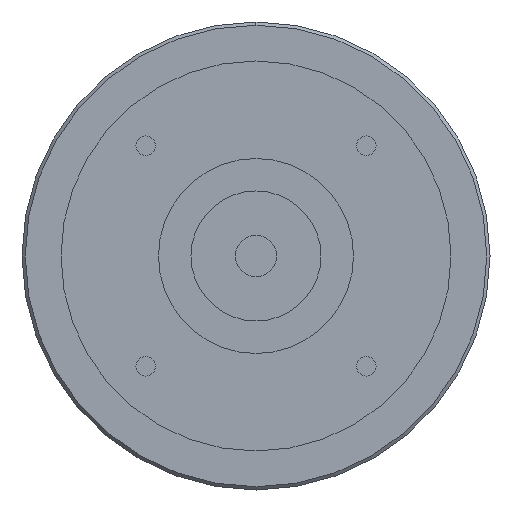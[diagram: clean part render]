
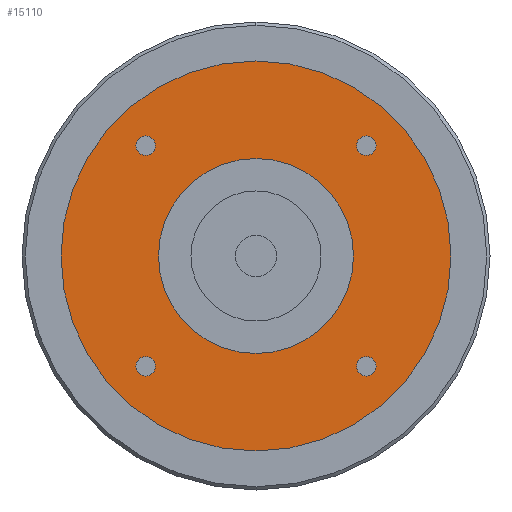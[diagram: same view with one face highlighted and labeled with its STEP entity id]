
A CAD part, left-side view. The second image highlights one B-rep face of the part: STEP entity #15110.
In plain terms, the highlighted planar face has unit normal (-1, 0, 0) as drawn and (0, 0, -1) by its records, which use the part's own axes.
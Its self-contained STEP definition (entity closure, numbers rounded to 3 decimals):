
#11930=CARTESIAN_POINT('',(-16.971,15.471,-92.));
#11940=VERTEX_POINT('',#11930);
#12120=CARTESIAN_POINT('',(-16.971,18.471,-92.));
#12130=VERTEX_POINT('',#12120);
#12160=CARTESIAN_POINT('',(-16.971,16.971,-92.));
#12170=DIRECTION('',(0.,0.,-1.));
#12180=DIRECTION('',(-1.,0.,0.));
#12190=AXIS2_PLACEMENT_3D('',#12160,#12170,#12180);
#12200=CIRCLE('',#12190,1.5);
#12210=CARTESIAN_POINT('',(-18.471,16.971,-92.));
#12220=VERTEX_POINT('',#12210);
#12230=EDGE_CURVE('',#12220,#12130,#12200,.T.);
#12250=EDGE_CURVE('',#11940,#12220,#12200,.T.);
#12390=CARTESIAN_POINT('',(15.471,16.971,-92.));
#12400=VERTEX_POINT('',#12390);
#12580=CARTESIAN_POINT('',(18.471,16.971,-92.));
#12590=VERTEX_POINT('',#12580);
#12620=CARTESIAN_POINT('',(16.971,16.971,-92.));
#12630=DIRECTION('',(0.,0.,-1.));
#12640=DIRECTION('',(0.,1.,0.));
#12650=AXIS2_PLACEMENT_3D('',#12620,#12630,#12640);
#12660=CIRCLE('',#12650,1.5);
#12670=CARTESIAN_POINT('',(16.971,18.471,-92.));
#12680=VERTEX_POINT('',#12670);
#12690=EDGE_CURVE('',#12680,#12590,#12660,.T.);
#12710=EDGE_CURVE('',#12400,#12680,#12660,.T.);
#14040=CARTESIAN_POINT('',(30.,0.,-92.));
#14050=VERTEX_POINT('',#14040);
#14080=CARTESIAN_POINT('',(0.,0.,
-92.));
#14090=DIRECTION('',(0.,0.,1.));
#14100=DIRECTION('',(0.,-1.,0.));
#14110=AXIS2_PLACEMENT_3D('',#14080,#14090,#14100);
#14120=CIRCLE('',#14110,30.);
#14130=CARTESIAN_POINT('',(0.,-30.,-92.));
#14140=VERTEX_POINT('',#14130);
#14150=EDGE_CURVE('',#14140,#14050,#14120,.T.);
#14170=CARTESIAN_POINT('',(-30.,0.,-92.));
#14180=VERTEX_POINT('',#14170);
#14190=EDGE_CURVE('',#14180,#14140,#14120,.T.);
#14310=CARTESIAN_POINT('',(0.,0.,
-92.));
#14320=DIRECTION('',(0.,0.,1.));
#14330=DIRECTION('',(-1.,0.,0.));
#14340=AXIS2_PLACEMENT_3D('',#14310,#14320,#14330);
#14350=PLANE('',#14340);
#14360=CARTESIAN_POINT('',(-16.971,-16.971,-92.));
#14370=DIRECTION('',(0.,0.,-1.));
#14380=DIRECTION('',(0.,-1.,0.));
#14390=AXIS2_PLACEMENT_3D('',#14360,#14370,#14380);
#14400=CIRCLE('',#14390,1.5);
#14410=CARTESIAN_POINT('',(-16.971,-18.471,-92.));
#14420=VERTEX_POINT('',#14410);
#14430=CARTESIAN_POINT('',(-18.471,-16.971,-92.));
#14440=VERTEX_POINT('',#14430);
#14450=EDGE_CURVE('',#14420,#14440,#14400,.T.);
#14460=ORIENTED_EDGE('',*,*,#14450,.F.);
#14470=CARTESIAN_POINT('',(-15.471,-16.971,-92.));
#14480=VERTEX_POINT('',#14470);
#14490=EDGE_CURVE('',#14440,#14480,#14400,.T.);
#14500=ORIENTED_EDGE('',*,*,#14490,.F.);
#14510=EDGE_CURVE('',#14480,#14420,#14400,.T.);
#14520=ORIENTED_EDGE('',*,*,#14510,.F.);
#14530=EDGE_LOOP('',(#14520,#14500,#14460));
#14540=FACE_BOUND('',#14530,.T.);
#14550=CARTESIAN_POINT('',(0.,0.,
-92.));
#14560=DIRECTION('',(0.,0.,1.));
#14570=DIRECTION('',(0.,-1.,0.));
#14580=AXIS2_PLACEMENT_3D('',#14550,#14560,#14570);
#14590=CIRCLE('',#14580,15.);
#14600=CARTESIAN_POINT('',(15.,0.,-92.));
#14610=VERTEX_POINT('',#14600);
#14620=CARTESIAN_POINT('',(-15.,0.,-92.));
#14630=VERTEX_POINT('',#14620);
#14640=EDGE_CURVE('',#14610,#14630,#14590,.T.);
#14650=ORIENTED_EDGE('',*,*,#14640,.T.);
#14660=CARTESIAN_POINT('',(0.,-15.,-92.));
#14670=VERTEX_POINT('',#14660);
#14680=EDGE_CURVE('',#14670,#14610,#14590,.T.);
#14690=ORIENTED_EDGE('',*,*,#14680,.T.);
#14700=EDGE_CURVE('',#14630,#14670,#14590,.T.);
#14710=ORIENTED_EDGE('',*,*,#14700,.T.);
#14720=EDGE_LOOP('',(#14710,#14690,#14650));
#14730=FACE_BOUND('',#14720,.T.);
#14740=CARTESIAN_POINT('',(16.971,-16.971,-92.));
#14750=DIRECTION('',(0.,0.,-1.));
#14760=DIRECTION('',(1.,0.,0.));
#14770=AXIS2_PLACEMENT_3D('',#14740,#14750,#14760);
#14780=CIRCLE('',#14770,1.5);
#14790=CARTESIAN_POINT('',(18.471,-16.971,-92.));
#14800=VERTEX_POINT('',#14790);
#14810=CARTESIAN_POINT('',(16.971,-18.471,-92.));
#14820=VERTEX_POINT('',#14810);
#14830=EDGE_CURVE('',#14800,#14820,#14780,.T.);
#14840=ORIENTED_EDGE('',*,*,#14830,.F.);
#14850=CARTESIAN_POINT('',(16.971,-15.471,-92.));
#14860=VERTEX_POINT('',#14850);
#14870=EDGE_CURVE('',#14820,#14860,#14780,.T.);
#14880=ORIENTED_EDGE('',*,*,#14870,.F.);
#14890=EDGE_CURVE('',#14860,#14800,#14780,.T.);
#14900=ORIENTED_EDGE('',*,*,#14890,.F.);
#14910=EDGE_LOOP('',(#14900,#14880,#14840));
#14920=FACE_BOUND('',#14910,.T.);
#14930=ORIENTED_EDGE('',*,*,#12690,.F.);
#14940=EDGE_CURVE('',#12590,#12400,#12660,.T.);
#14950=ORIENTED_EDGE('',*,*,#14940,.F.);
#14960=ORIENTED_EDGE('',*,*,#12710,.F.);
#14970=EDGE_LOOP('',(#14960,#14950,#14930));
#14980=FACE_BOUND('',#14970,.T.);
#14990=ORIENTED_EDGE('',*,*,#12230,.F.);
#15000=EDGE_CURVE('',#12130,#11940,#12200,.T.);
#15010=ORIENTED_EDGE('',*,*,#15000,.F.);
#15020=ORIENTED_EDGE('',*,*,#12250,.F.);
#15030=EDGE_LOOP('',(#15020,#15010,#14990));
#15040=FACE_BOUND('',#15030,.T.);
#15050=ORIENTED_EDGE('',*,*,#14150,.F.);
#15060=EDGE_CURVE('',#14050,#14180,#14120,.T.);
#15070=ORIENTED_EDGE('',*,*,#15060,.F.);
#15080=ORIENTED_EDGE('',*,*,#14190,.F.);
#15090=EDGE_LOOP('',(#15080,#15070,#15050));
#15100=FACE_OUTER_BOUND('',#15090,.T.);
#15110=ADVANCED_FACE('',(#14540,#14730,#14920,#14980,#15040,#15100),
#14350,.F.);
